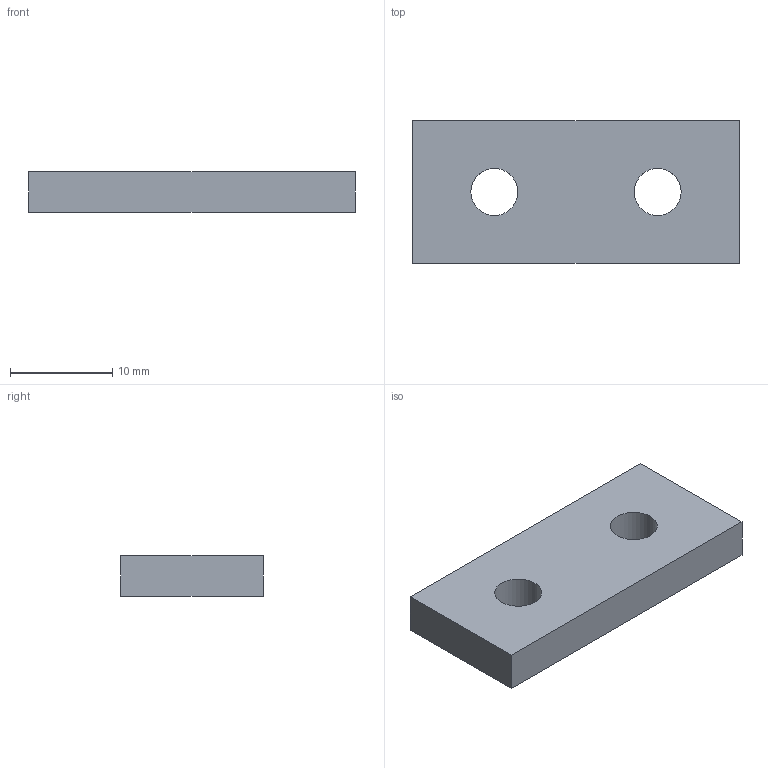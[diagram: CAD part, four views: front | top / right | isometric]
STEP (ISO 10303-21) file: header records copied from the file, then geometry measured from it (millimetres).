
FILE_DESCRIPTION(('Open CASCADE Model'),'2;1');
FILE_NAME('Open CASCADE Shape Model','2026-10-08T14:17:54',('Author'),( 'Open CASCADE'),'Open CASCADE STEP processor 7.9','Open CASCADE 7.9' ,'Unknown');
FILE_SCHEMA(('AUTOMOTIVE_DESIGN { 1 0 10303 214 1 1 1 1 }'));
Length unit declared in the file: millimetre
Products named in the file (1): Open CASCADE STEP translator 7.9 4
Bounding box: 32 x 14 x 4 mm (x, y, z)
Volume: 1659 mm3; surface area: 1313.1 mm2
Topology: 1 solids, 1 shells, 8 faces, 18 edges, 12 vertices
Faces by surface type: plane 6, cylinder 2
Full cylindrical faces by diameter (mm): 4.6 x2
Entity records: 490 total; most frequent: CARTESIAN_POINT 99, DIRECTION 72, LINE 46, VECTOR 46, ORIENTED_EDGE 36, PCURVE 36, DEFINITIONAL_REPRESENTATION 36, EDGE_CURVE 18
